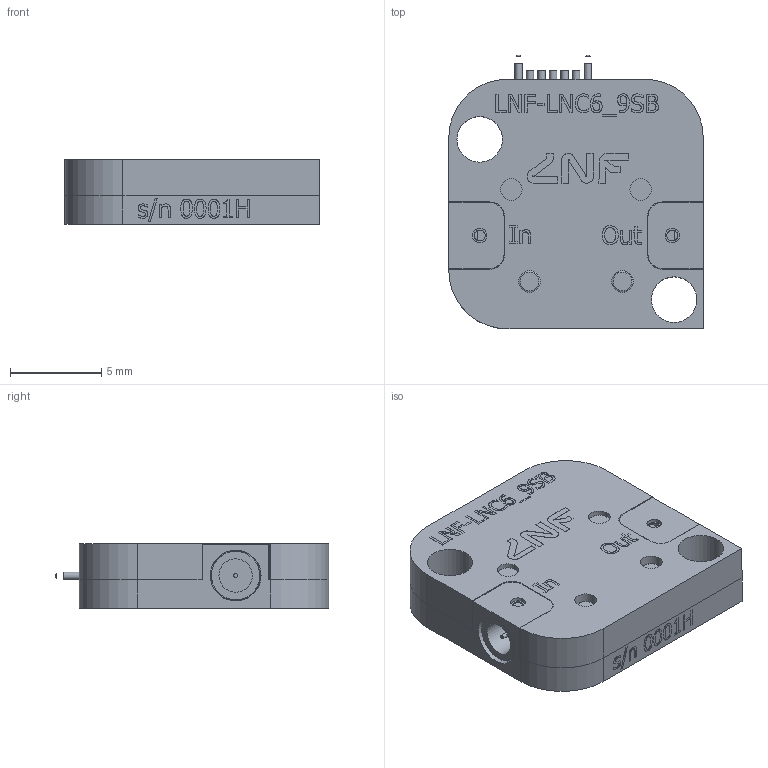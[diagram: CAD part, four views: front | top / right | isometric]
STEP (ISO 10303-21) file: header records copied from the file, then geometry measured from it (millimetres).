
FILE_DESCRIPTION(/* description */ (''),/* implementation_level */ '2;1');
FILE_NAME(/* name */ 'C:\$WorkingFolder\Engineering Data\Inventor Data\LNAs\LNF-LNC6_9A\LNF-LNC6_9SB\LNF-LNC6_9SB_assembly_Simplify_2.stp',/* time_stamp */ '2024-02-27T14:58:28+01:00',/* author */ ('EstefanySantana'),/* organization */ (''),/* preprocessor_version */ 'ST-DEVELOPER v18.1',/* originating_system */ 'Autodesk Inventor 2022',/* authorisation */ '');
FILE_SCHEMA (('AUTOMOTIVE_DESIGN { 1 0 10303 214 3 1 1 }'));
Length unit declared in the file: millimetre
Products named in the file (1): LNF-LNC6_9SB_assembly_Simplify_2
Bounding box: 13.98 x 15.03 x 3.56 mm (x, y, z)
Surface area: 836.3 mm2 (no closed solid volume)
Topology: 0 solids, 1 shells, 645 faces, 1699 edges, 1122 vertices
Faces by surface type: plane 379, bspline 177, cylinder 76, cone 13
Full cylindrical faces by diameter (mm): 0.229 x2, 0.305 x5, 0.406 x7, 0.45 x7, 0.6 x2, 0.8 x2, 1.183 x4, 1.4 x1, 1.829 x2, 2.5 x4, 2.667 x2, 2.794 x2
Entity records: 21499 total; most frequent: CARTESIAN_POINT 5900, ORIENTED_EDGE 3396, DIRECTION 2457, EDGE_CURVE 1699, VERTEX_POINT 1122, LINE 1117, VECTOR 1117, EDGE_LOOP 725
